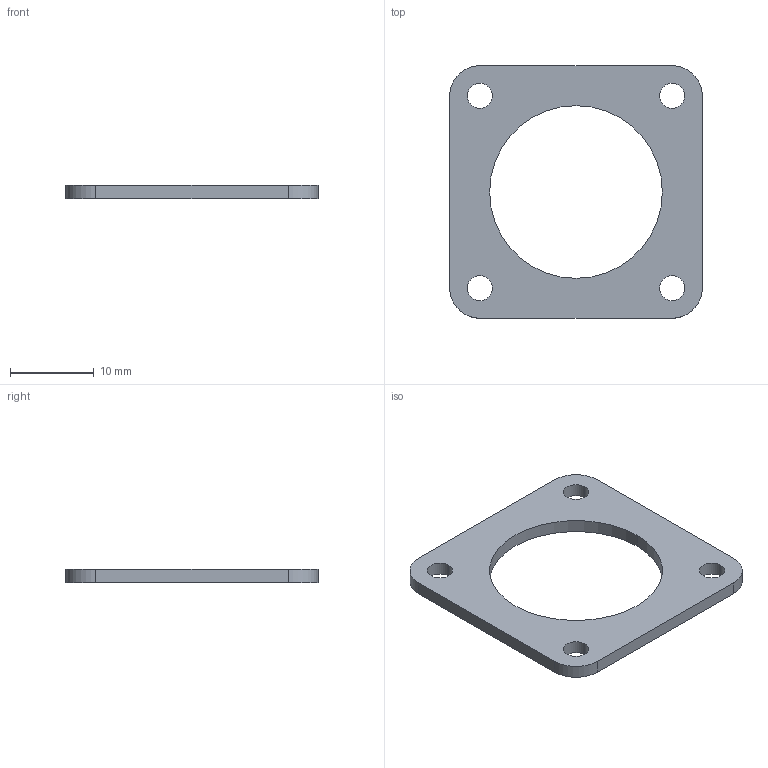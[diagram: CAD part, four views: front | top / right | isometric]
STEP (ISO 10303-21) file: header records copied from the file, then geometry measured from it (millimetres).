
FILE_DESCRIPTION (( 'STEP AP203' ), '1' );
FILE_NAME ('CE05-14SRGS.STEP', '2018-09-13T02:26:25', ( '' ), ( '' ), 'SwSTEP 2.0', 'SolidWorks 2018', '' );
FILE_SCHEMA (( 'CONFIG_CONTROL_DESIGN' ));
Length unit declared in the file: millimetre
Products named in the file (1): CE05-14SRGS
Bounding box: 30.2 x 30.2 x 1.6 mm (x, y, z)
Volume: 860.4 mm3; surface area: 1423 mm2
Topology: 1 solids, 1 shells, 20 faces, 54 edges, 36 vertices
Faces by surface type: cylinder 14, plane 6
Entity records: 743 total; most frequent: DIRECTION 124, CARTESIAN_POINT 111, ORIENTED_EDGE 108, EDGE_CURVE 54, AXIS2_PLACEMENT_3D 49, VERTEX_POINT 36, EDGE_LOOP 30, CIRCLE 28
